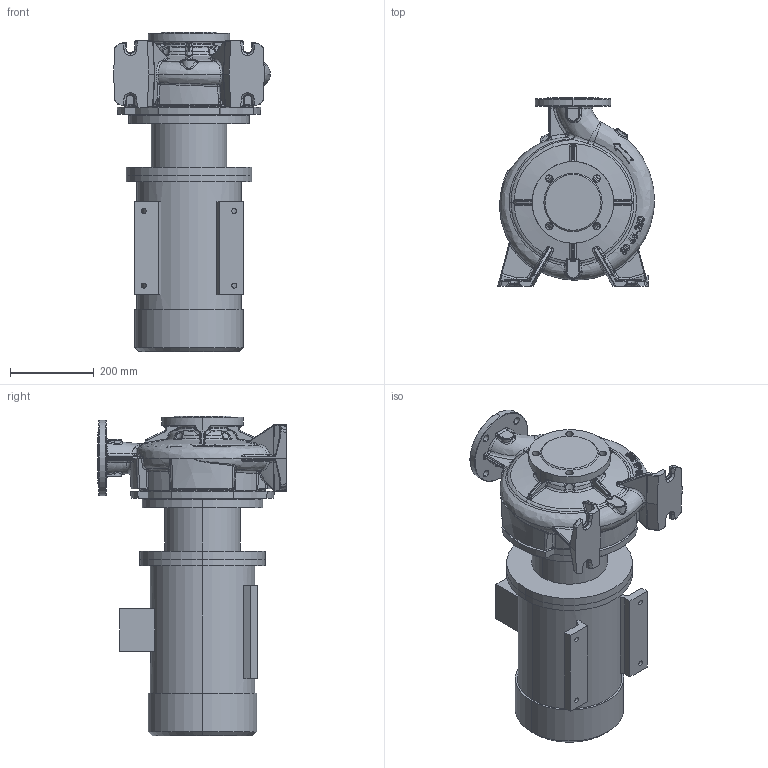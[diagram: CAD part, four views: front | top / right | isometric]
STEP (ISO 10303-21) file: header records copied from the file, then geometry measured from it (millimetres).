
FILE_DESCRIPTION (( 'STEP AP203' ), '1' );
FILE_NAME ('KRM 80-65-250-4-7,5.STEP', '2026-05-07T05:41:50', ( '' ), ( '' ), 'SwSTEP 2.0', 'SolidWorks 2016', '' );
FILE_SCHEMA (( 'CONFIG_CONTROL_DESIGN' ));
Length unit declared in the file: millimetre
Products named in the file (1): KRM 80-65-250-4-7,5
Bounding box: 374.33 x 450 x 762.8 mm (x, y, z)
Volume: 43954772.8 mm3; surface area: 1732505.1 mm2
Topology: 8 solids, 8 shells, 1125 faces, 2712 edges, 1615 vertices
Faces by surface type: bspline 507, cylinder 225, plane 214, torus 75, cone 67, sphere 37
Entity records: 93735 total; most frequent: CARTESIAN_POINT 71441, ORIENTED_EDGE 5374, DIRECTION 3647, EDGE_CURVE 2687, VERTEX_POINT 1615, AXIS2_PLACEMENT_3D 1512, EDGE_LOOP 1186, FACE_OUTER_BOUND 1125
